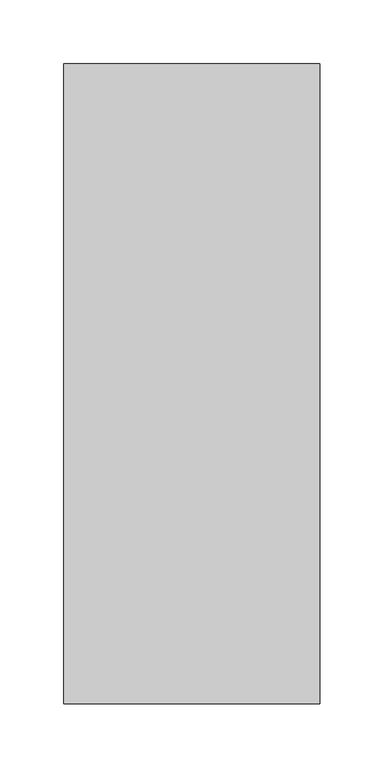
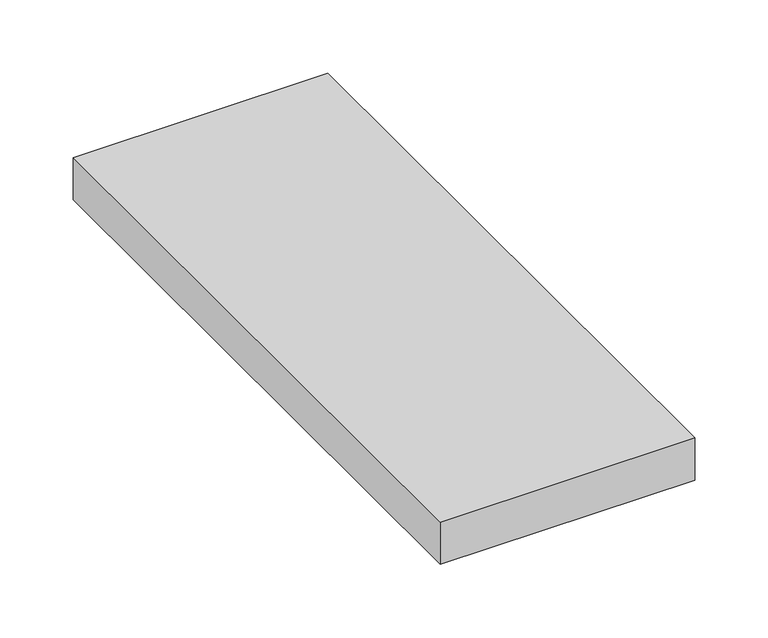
"""IFC4 building model written with IfcOpenShell, lengths in millimetres: furniture geometry, Pixel_Multiple : Pixel_Multiple."""

from ifc_helpers import new_model, si_unit, origin, origin_with_axes, place, context, project, spatial, polyline, outline, extrude, source, transform, mapped, element, save


def furniture_a965c874(model_context):
    return source(origin(), model_context, "Body", "SweptSolid", [
        extrude(outline(polyline([(200.0, 0.0), (0.0, 0.0), (0.0, 500.0), (200.0, 500.0), (200.0, 0.0)])), origin_with_axes(), (0.0, 0.0, 1.0), 35.0),
    ])


if __name__ == "__main__":
    model = new_model("IFC4")
    model_context = context("Model", 3, world=origin())
    ifc_project = project(units=[si_unit("LENGTHUNIT", "METRE", prefix="MILLI")], contexts=[model_context])
    site = spatial("IfcSite", under=ifc_project)
    building = spatial("IfcBuilding", under=site)
    placement = place(None, origin())
    furniture_shape = furniture_a965c874(model_context)
    element("IfcFurniture", 1, ObjectType="Pixel_Multiple : Pixel_Multiple", at=placement, inside=building, context=model_context, shape_type="MappedRepresentation", body=[
        mapped(furniture_shape, transform((0.0, 0.0, 0.0), x_axis=(1.0, 0.0, 0.0), y_axis=(0.0, 1.0, 0.0), z_axis=(0.0, 0.0, 1.0))),
    ])
    save(model, "model.ifc")
